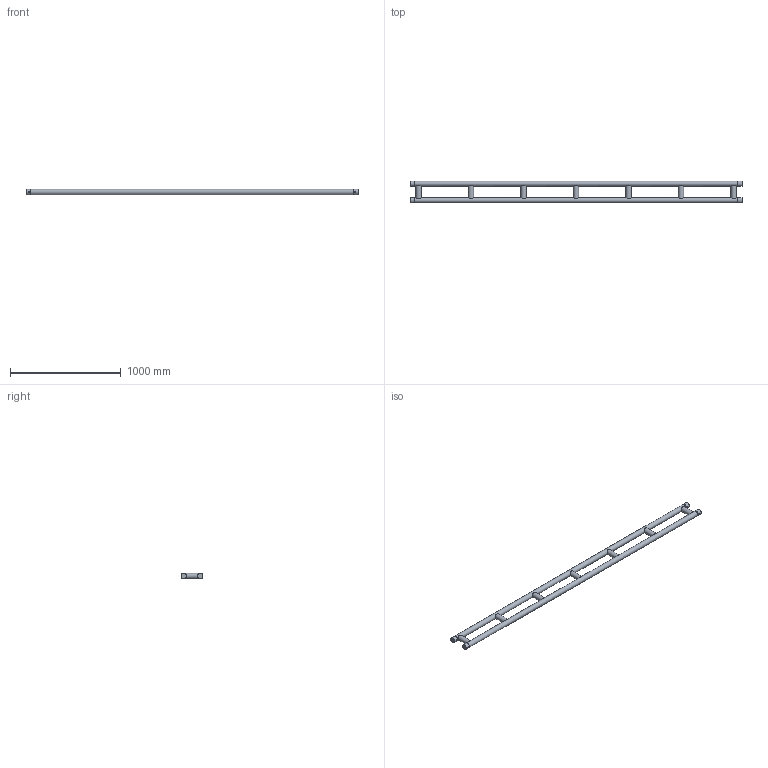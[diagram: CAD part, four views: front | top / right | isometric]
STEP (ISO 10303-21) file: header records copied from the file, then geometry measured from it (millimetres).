
FILE_DESCRIPTION(/* description */ (''),/* implementation_level */ '2;1');
FILE_NAME(/* name */ 'C:\Users\adrian.toca\Desktop\111050539.stp',/* time_stamp */ '2016-09-27T16:48:56+03:00',/* author */ ('adrian.toca'),/* organization */ (''),/* preprocessor_version */ 'ST-DEVELOPER v15.6',/* originating_system */ 'Autodesk Inventor 2015',/* authorisation */ '');
FILE_SCHEMA (('AUTOMOTIVE_DESIGN { 1 0 10303 214 3 1 1 }'));
Length unit declared in the file: millimetre
Products named in the file (1): 260031013
Bounding box: 3000 x 198.3 x 48.3 mm (x, y, z)
Volume: 12369072.7 mm3; surface area: 1020972.9 mm2
Topology: 1 solids, 1 shells, 57 faces, 183 edges, 116 vertices
Faces by surface type: plane 36, cylinder 17, cone 4
Full cylindrical faces by diameter (mm): 10 x4, 48.3 x13
Entity records: 1982 total; most frequent: CARTESIAN_POINT 542, DIRECTION 288, ORIENTED_EDGE 232, AXIS2_PLACEMENT_3D 130, EDGE_CURVE 116, EDGE_LOOP 104, VERTEX_POINT 88, STYLED_ITEM 58
